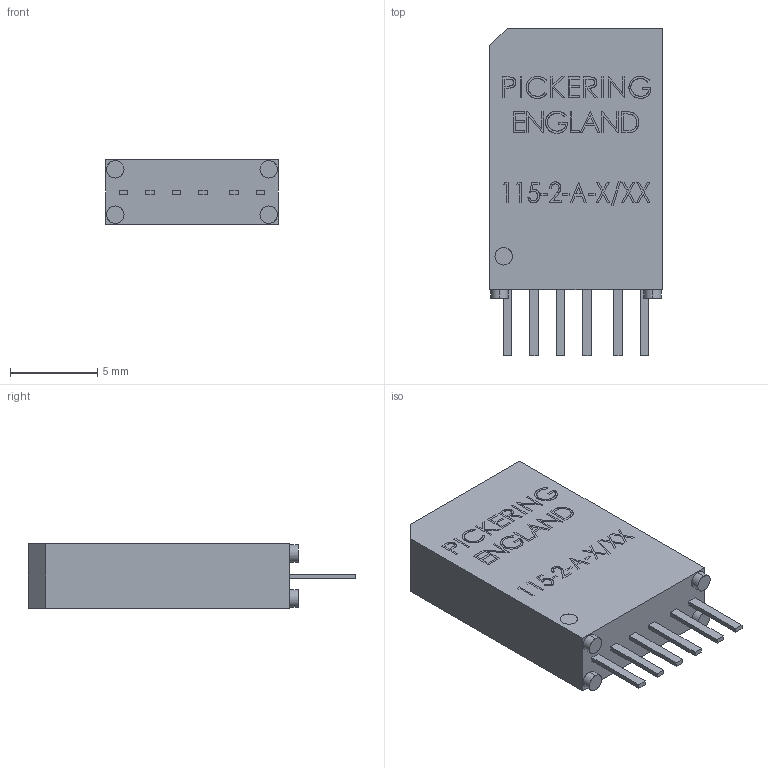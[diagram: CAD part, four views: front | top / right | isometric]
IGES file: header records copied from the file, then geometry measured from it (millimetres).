
Start section: SolidWorks IGES file using analytic representation for surfaces
Global section: file name: C:\Documents and Settings\alex.leming\Desktop\Replacement Models\115-2-A.IGS; native system: SolidWorks 2009; preprocessor: SolidWorks 2009; author: alex.leming; date: 101126.134606; units: millimetre
Bounding box: 9.9 x 18.8 x 3.7 mm (x, y, z)
Surface area: 519.1 mm2 (no closed solid volume)
Topology: 0 solids, 0 shells, 356 faces, 2756 edges, 2756 vertices
Faces by surface type: bspline 346, revolution 10
